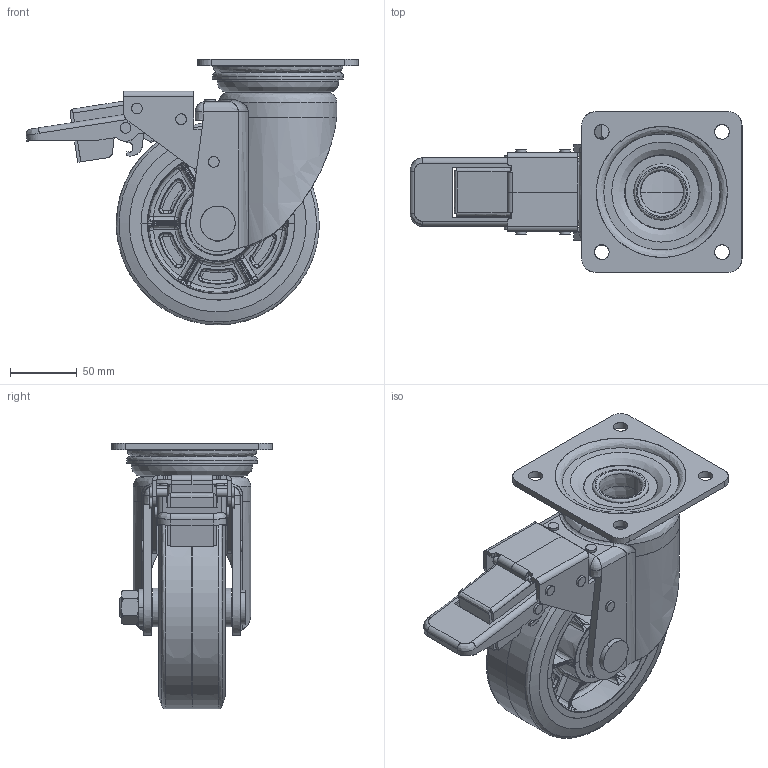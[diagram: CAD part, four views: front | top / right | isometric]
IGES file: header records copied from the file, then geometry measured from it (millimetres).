
Start section: JAMA-IS VERSION  1.0
Global section: file name: C:\CAM-TOOL data\ToolsFile\INOAC車輪\5月\HP-150WJS\HE-150WJS-ALL.igs; native system: CAM-TOOL; preprocessor: C3out Version 11.1.1.50212 (2015/02/12); author: NONE; organization: NONE; date: 230626.165252; units: millimetre
Bounding box: 248.57 x 120 x 199 mm (x, y, z)
Surface area: 338295.2 mm2 (no closed solid volume)
Topology: 0 solids, 0 shells, 1265 faces, 13947 edges, 13787 vertices
Faces by surface type: bspline 1265
